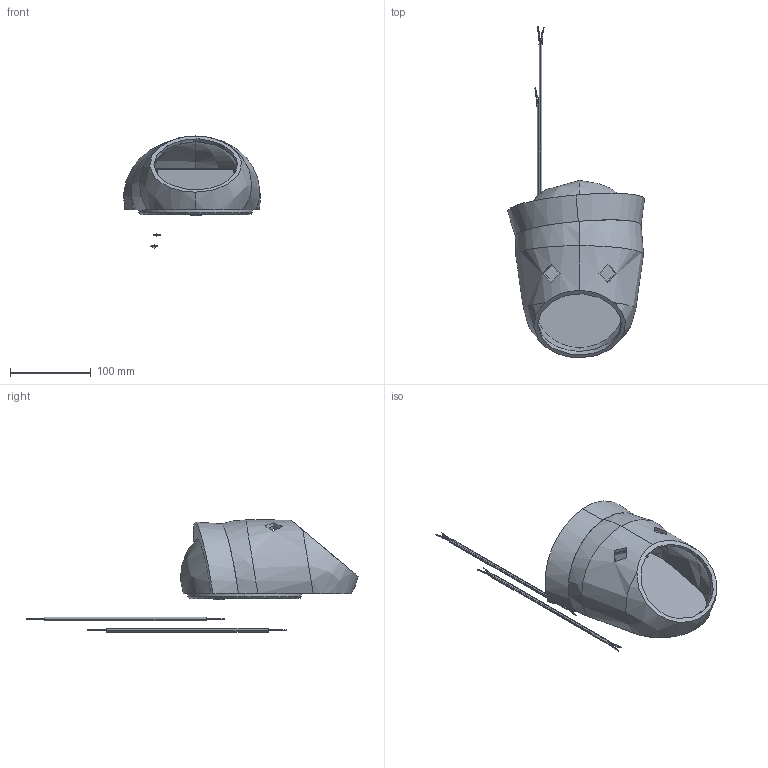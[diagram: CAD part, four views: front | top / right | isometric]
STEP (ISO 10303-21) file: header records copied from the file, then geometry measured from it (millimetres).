
FILE_DESCRIPTION (( 'STEP AP214' ), '1' );
FILE_NAME ('A000923_Creations_Default_GLEN_19-10-2018.step', '2018-10-19T07:16:45', ( '' ), ( '' ), 'SwSTEP 2.0', 'SolidWorks 2017', '' );
FILE_SCHEMA (( 'AUTOMOTIVE_DESIGN' ));
Length unit declared in the file: millimetre
Products named in the file (21): P002659; A000915; P002221; EN ISO 10642 - M3 x 16 - 16N_EN ISO 10642 - M3 x 16 - 16N; DIN 6797-A3.2_DIN 6797-A3.2; P002521; P002654; P002709_120-14-C0450-TL; P002653; DIN EN ISO 7045 - M3 x 8 - Z - 8N_DIN EN ISO 7045 - M3 x 8 - Z - 8N; DIN 985 - M3 - N; ISO 7380 - M3 x 10 - 10N_ISO 7380 - M3 x 10 - 10N; P002325; P002522; P001935; P002375; P002326; P000780; P000480; P002594; A000923_Creations_Default_GLEN_19-10-2018
Assembly tree (34 placements, depth 3):
  A000923_Creations_Default_GLEN_19-10-2018
    A000915
      P002326
      P002521
      P002522
      P002653
      P002654
      P002221
      P000480
      P001935  x3
      P002325
      P002709_120-14-C0450-TL
      DIN 985 - M3 - N  x8
      P002659
      P000780
      EN ISO 10642 - M3 x 16 - 16N_EN ISO 10642 - M3 x 16 - 16N  x4
      P002375  x2
      ISO 7380 - M3 x 10 - 10N_ISO 7380 - M3 x 10 - 10N  x2
      DIN 6797-A3.2_DIN 6797-A3.2
      DIN EN ISO 7045 - M3 x 8 - Z - 8N_DIN EN ISO 7045 - M3 x 8 - Z - 8N
    P002594
Bounding box: 169.3 x 409.92 x 138.43 mm (x, y, z)
Volume: 758923.6 mm3; surface area: 297868.9 mm2
Topology: 43 solids, 44 shells, 1737 faces, 4301 edges, 2711 vertices
Faces by surface type: plane 852, cylinder 427, bspline 213, cone 187, torus 48, sphere 10
Entity records: 57215 total; most frequent: CARTESIAN_POINT 29276, ORIENTED_EDGE 5630, DIRECTION 4922, EDGE_CURVE 2815, VERTEX_POINT 1811, VECTOR 1688, LINE 1688, AXIS2_PLACEMENT_3D 1617
